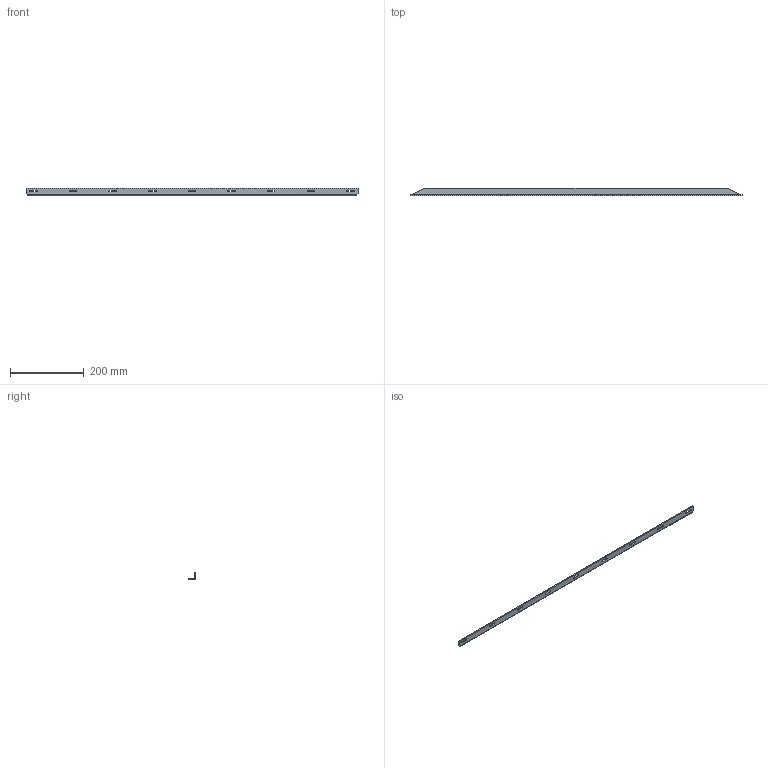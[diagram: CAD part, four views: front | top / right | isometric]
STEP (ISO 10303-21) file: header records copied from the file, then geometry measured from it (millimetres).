
FILE_DESCRIPTION (( 'STEP AP214' ), '1' );
FILE_NAME ('E446-900.STEP', '2024-12-11T22:59:53', ( '' ), ( '' ), 'SwSTEP 2.0', 'SolidWorks 2024', '' );
FILE_SCHEMA (( 'AUTOMOTIVE_DESIGN' ));
Length unit declared in the file: millimetre
Products named in the file (1): E446-900
Bounding box: 900 x 20 x 20 mm (x, y, z)
Volume: 92578.5 mm3; surface area: 68512.8 mm2
Topology: 1 solids, 1 shells, 104 faces, 286 edges, 188 vertices
Faces by surface type: plane 72, cylinder 26, bspline 6
Entity records: 3459 total; most frequent: CARTESIAN_POINT 761, ORIENTED_EDGE 572, DIRECTION 516, EDGE_CURVE 286, LINE 222, VECTOR 222, VERTEX_POINT 188, AXIS2_PLACEMENT_3D 147
